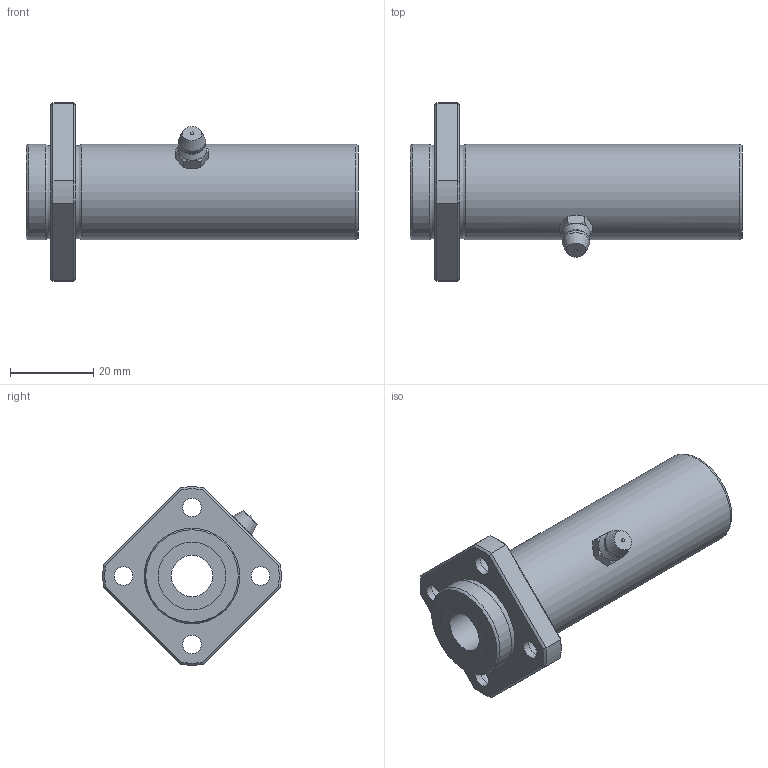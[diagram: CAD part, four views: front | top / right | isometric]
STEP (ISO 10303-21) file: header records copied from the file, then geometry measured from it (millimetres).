
FILE_DESCRIPTION((''),'2;1');
FILE_NAME('D:\製品 (図面)\カタログ用3D\リニアベアリング関連\STEP形式\LFLKB\LFLKB10.stp','2010-06-04T09:10:36',('Tsuchiya'),(''),'Autodesk Inventor 10','Autodesk Inventor 10','');
FILE_SCHEMA(('AUTOMOTIVE_DESIGN { 1 0 10303 214 1 1 1 1 }'));
Length unit declared in the file: millimetre
Products named in the file (1): LFLKB10
Bounding box: 80 x 42.96 x 42.96 mm (x, y, z)
Volume: 30423.1 mm3; surface area: 11241.4 mm2
Topology: 1 solids, 1 shells, 80 faces, 166 edges, 98 vertices
Faces by surface type: plane 28, cone 21, bspline 16, cylinder 11, sphere 2, torus 2
Full cylindrical faces by diameter (mm): 10 x1, 16.3 x2, 23 x2
Entity records: 2413 total; most frequent: CARTESIAN_POINT 879, DIRECTION 300, ORIENTED_EDGE 288, EDGE_CURVE 144, AXIS2_PLACEMENT_3D 133, EDGE_LOOP 122, VERTEX_POINT 96, FACE_OUTER_BOUND 80
